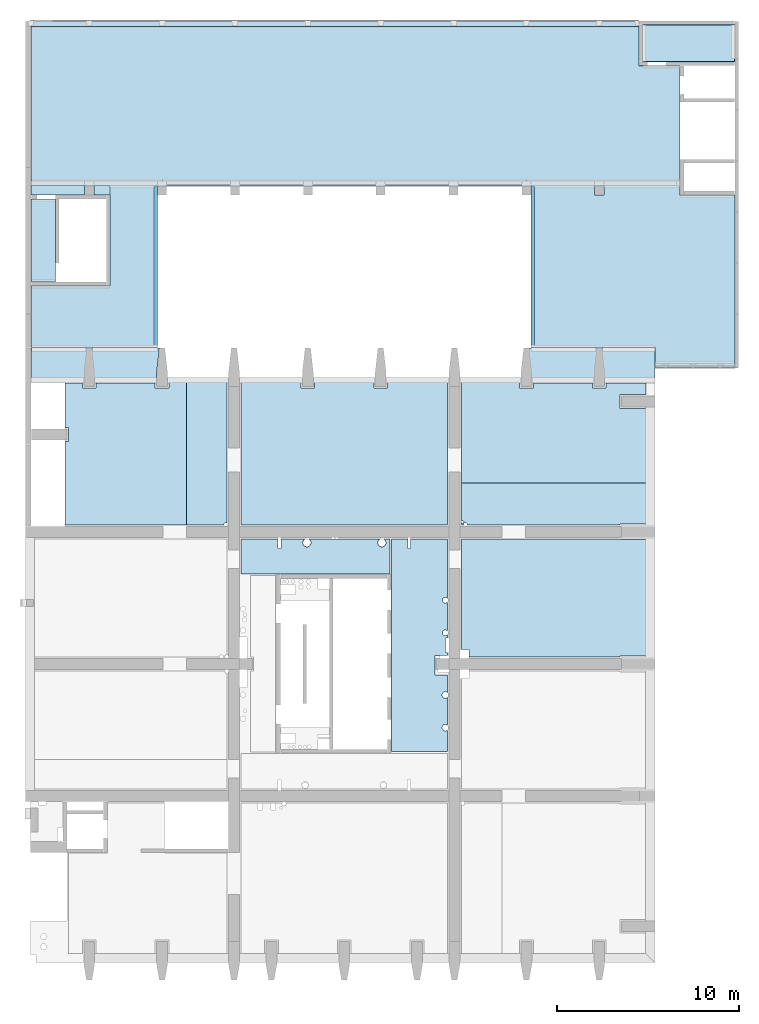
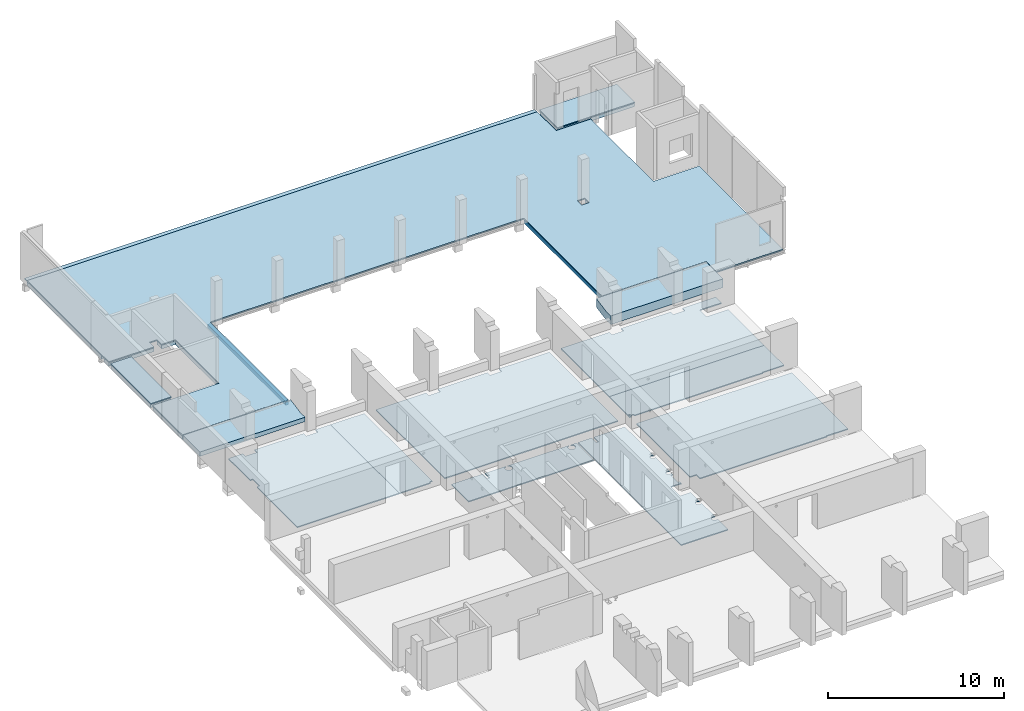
# One storey, part 6 of 10: 24 slabs, 43 openings.
"""IFC2X3 building model written with IfcOpenShell, lengths in millimetres."""

import ifcopenshell
import ifcopenshell.guid

model = None  # the IFC model being written
_history = None  # IfcOwnerHistory: only IFC2X3 demands one
_inside = {}  # id of a spatial element -> (the spatial element, [elements in it])
_under = {}  # id of a project, library or spatial element -> (it, [spatial elements below it])
_declared = {}  # id of a project -> (the project, [libraries it declares])
_typed = {}  # id of a type object -> (the type object, [elements of that type])
_made_of = {}  # id of a material, layer set ... -> (it, [elements and type objects made of it])


def new_model(schema):
    """Start an empty IFC model of exactly this schema.

    Asked for "IFC4X3", IfcOpenShell would pick the latest addendum, in which some entities
    have other attributes; the version numbers below select the first issue.
    IFC2X3 requires an IfcOwnerHistory on every rooted entity: one is made here for all.
    """
    global model, _history
    if schema == "IFC4X3":
        model = ifcopenshell.file(schema_version=(4, 3, 0, 0))
    else:
        model = ifcopenshell.file(schema=schema)
    _inside.clear()
    _under.clear()
    _declared.clear()
    _typed.clear()
    _made_of.clear()
    _history = None
    if model.schema == "IFC2X3":
        org = make("IfcOrganization", Name="unknown")
        user = make(
            "IfcPersonAndOrganization",
            ThePerson=make("IfcPerson", FamilyName="unknown"),
            TheOrganization=org,
        )
        app = make(
            "IfcApplication",
            ApplicationDeveloper=org,
            Version="unknown",
            ApplicationFullName="unknown",
            ApplicationIdentifier="unknown",
        )
        _history = make(
            "IfcOwnerHistory",
            OwningUser=user,
            OwningApplication=app,
            ChangeAction="ADDED",
            CreationDate=0,
        )
    return model


def make(cls, **values):
    """One entity of the class cls with the attributes given. An attribute that is None is left unset."""
    return model.create_entity(
        cls, **{name: value for name, value in values.items() if value is not None}
    )


def entity(cls, *values):
    """Any entity or typed value of the class cls, its attributes in the order of the schema. None: left unset."""
    e = model.create_entity(cls)
    for i, value in enumerate(values):
        if value is not None:
            e[i] = value
    return e


def rooted(cls, **values):
    """An entity with a GlobalId (a new one), such as an element, a storey or a relation."""
    return make(cls, GlobalId=ifcopenshell.guid.new(), OwnerHistory=_history, **values)


def si_unit(unit_type, name, prefix=None):
    """IfcSIUnit, for example si_unit("LENGTHUNIT", "METRE", prefix="MILLI")."""
    return make("IfcSIUnit", UnitType=unit_type, Prefix=prefix, Name=name)


def converted_unit(unit_type, name, factor, base, dimensions=None, offset=None):
    """IfcConversionBasedUnit, such as the inch: factor (a typed value) times the base unit."""
    return make(
        "IfcConversionBasedUnit"
        if offset is None
        else "IfcConversionBasedUnitWithOffset",
        ConversionOffset=offset,
        Dimensions=None
        if dimensions is None
        else entity("IfcDimensionalExponents", *dimensions),
        UnitType=unit_type,
        Name=name,
        ConversionFactor=make(
            "IfcMeasureWithUnit", ValueComponent=factor, UnitComponent=base
        ),
    )


def derived_unit(unit_type, elements):
    """IfcDerivedUnit: a product of units, each with its exponent."""
    return make(
        "IfcDerivedUnit",
        Elements=[
            make("IfcDerivedUnitElement", Unit=unit, Exponent=power)
            for unit, power in elements
        ],
        UnitType=unit_type,
    )


def assignment(units):
    """IfcUnitAssignment: the units of a project."""
    return None if units is None else make("IfcUnitAssignment", Units=units)


def point(xyz):
    """IfcCartesianPoint."""
    return None if xyz is None else make("IfcCartesianPoint", Coordinates=xyz)


def direction(xyz):
    """IfcDirection."""
    return None if xyz is None else make("IfcDirection", DirectionRatios=xyz)


def frame(location, z_axis=None, x_axis=None):
    """IfcAxis2Placement3D, a coordinate frame: its origin and axes. An axis left out is left unset."""
    return make(
        "IfcAxis2Placement3D",
        Location=point(location),
        Axis=direction(z_axis),
        RefDirection=direction(x_axis),
    )


def frame_2d(location, x_axis=None):
    """IfcAxis2Placement2D, a coordinate frame in the plane: its origin and x axis."""
    return make(
        "IfcAxis2Placement2D", Location=point(location), RefDirection=direction(x_axis)
    )


def origin():
    """The frame at (0, 0, 0) with its axes left unset."""
    return frame((0.0, 0.0, 0.0))


def origin_2d_with_axis():
    """The frame at (0, 0) in the plane with the x axis (1, 0) written out."""
    return frame_2d((0.0, 0.0), x_axis=(1.0, 0.0))


def place(relative_to, where):
    """IfcLocalPlacement: puts the frame where relative to a parent placement (None: the world)."""
    return make(
        "IfcLocalPlacement", PlacementRelTo=relative_to, RelativePlacement=where
    )


def context(
    kind, dimensions, precision=None, world=None, true_north=None, identifier=None
):
    """IfcGeometricRepresentationContext, for example the 3D "Model" context."""
    return make(
        "IfcGeometricRepresentationContext",
        ContextIdentifier=identifier,
        ContextType=kind,
        CoordinateSpaceDimension=dimensions,
        Precision=precision,
        WorldCoordinateSystem=world,
        TrueNorth=true_north,
    )


def subcontext(parent, identifier, kind, view, scale=None):
    """IfcGeometricRepresentationSubContext, for example "Body" below "Model"."""
    return make(
        "IfcGeometricRepresentationSubContext",
        ContextIdentifier=identifier,
        ContextType=kind,
        ParentContext=parent,
        TargetScale=scale,
        TargetView=view,
    )


def project(units=None, contexts=None):
    """IfcProject with its units and contexts."""
    return rooted(
        "IfcProject",
        Name="project",
        RepresentationContexts=contexts,
        UnitsInContext=assignment(units),
    )


def spatial(cls, under=None, at=None, **own):
    """A site, building, storey or space (cls), placed at a placement, below another one or the project."""
    s = rooted(cls, ObjectPlacement=at, **own)
    if under is not None:
        _under.setdefault(under.id(), (under, []))[1].append(s)
    return s


def polyline(points):
    """IfcPolyline through the points."""
    return make("IfcPolyline", Points=[point(p) for p in points])


def profile(cls, at=None, kind="AREA", **sizes):
    """A parametric profile (cls). Its sizes go by their IFC names, for example OverallWidth=200.0."""
    return make(cls, ProfileType=kind, Position=at, **sizes)


def rectangle(**sizes):
    """IfcRectangleProfileDef."""
    return profile("IfcRectangleProfileDef", **sizes)


def circle(**sizes):
    """IfcCircleProfileDef."""
    return profile("IfcCircleProfileDef", **sizes)


def outline(outer, holes=None, kind="AREA"):
    """IfcArbitraryClosedProfileDef: a profile drawn as a closed curve; with holes, ...WithVoids."""
    if holes is None:
        return make("IfcArbitraryClosedProfileDef", ProfileType=kind, OuterCurve=outer)
    return make(
        "IfcArbitraryProfileDefWithVoids",
        ProfileType=kind,
        OuterCurve=outer,
        InnerCurves=holes,
    )


def extrude(swept, where, along, depth):
    """IfcExtrudedAreaSolid: the profile swept, set in the frame where, extruded along a direction by depth."""
    return make(
        "IfcExtrudedAreaSolid",
        SweptArea=swept,
        Position=where,
        ExtrudedDirection=direction(along),
        Depth=depth,
    )


def shape(context_of_items, identifier, shape_type, items):
    """IfcShapeRepresentation: the items that make up one representation, for example the "Body"."""
    return make(
        "IfcShapeRepresentation",
        ContextOfItems=context_of_items,
        RepresentationIdentifier=identifier,
        RepresentationType=shape_type,
        Items=items,
    )


def material(Name=None, Category=None):
    """IfcMaterial."""
    return make("IfcMaterial", Name=Name, Category=Category)


def layer(
    of_material, thickness, ventilated=None, Name=None, Category=None, Priority=None
):
    """IfcMaterialLayer: one layer of a wall or slab, of a material (None: an air gap)."""
    return make(
        "IfcMaterialLayer",
        Material=of_material,
        LayerThickness=thickness,
        IsVentilated=ventilated,
        Name=Name,
        Category=Category,
        Priority=Priority,
    )


def layer_set(layers, Name=None):
    """IfcMaterialLayerSet."""
    return make("IfcMaterialLayerSet", MaterialLayers=layers, LayerSetName=Name)


def layer_usage(for_layer_set, set_direction, sense, offset, extent=None):
    """IfcMaterialLayerSetUsage: how a layer set lies in its element."""
    return make(
        "IfcMaterialLayerSetUsage",
        ForLayerSet=for_layer_set,
        LayerSetDirection=set_direction,
        DirectionSense=sense,
        OffsetFromReferenceLine=offset,
        ReferenceExtent=extent,
    )


def made_of(thing, what):
    """Note that an element or type object is made of a material, layer set ...; save() writes the relation."""
    if what is not None:
        _made_of.setdefault(what.id(), (what, []))[1].append(thing)
    return thing


def element(
    cls,
    number,
    at=None,
    inside=None,
    cuts=None,
    type_object=None,
    material=None,
    context=None,
    identifier="Body",
    shape_type=None,
    held_by="IfcProductDefinitionShape",
    body=None,
    shapes=None,
    **own,
):
    """One element of the class cls, such as IfcWall. Its Tag is "e" and its number.

    at: its placement. inside: the storey or other place that contains it. cuts: it is an
    opening in that element (IfcRelVoidsElement). A single representation is given by context,
    identifier, shape_type and body (its items); several are given by shapes. held_by: the class
    of the entity that holds the representations. save() writes the other relations.
    """
    e = rooted(cls, Tag="e%d" % number, ObjectPlacement=at, **own)
    if body is not None:
        shapes = [shape(context, identifier, shape_type, body)]
    if shapes is not None:
        e.Representation = make(held_by, Representations=shapes)
    if inside is not None:
        _inside.setdefault(inside.id(), (inside, []))[1].append(e)
    if cuts is not None:
        rooted(
            "IfcRelVoidsElement", RelatingBuildingElement=cuts, RelatedOpeningElement=e
        )
    if type_object is not None:
        _typed.setdefault(type_object.id(), (type_object, []))[1].append(e)
    return made_of(e, material)


def aggregate(whole, parts):
    """IfcRelAggregates: a whole, such as a stair, and the parts it consists of."""
    return rooted("IfcRelAggregates", RelatingObject=whole, RelatedObjects=parts)


def save(model, path):
    """Write the relations noted so far, then the file.

    IfcRelAggregates (storeys below a building ...), IfcRelContainedInSpatialStructure (elements
    in a storey), IfcRelDefinesByType, IfcRelAssociatesMaterial and IfcRelDeclares: one each for
    every whole, place, type object, material and project.
    """
    for whole, parts in _under.values():
        aggregate(whole, parts)
    for where, things in _inside.values():
        rooted(
            "IfcRelContainedInSpatialStructure",
            RelatedElements=things,
            RelatingStructure=where,
        )
    for kind, things in _typed.values():
        rooted("IfcRelDefinesByType", RelatedObjects=things, RelatingType=kind)
    for what, things in _made_of.values():
        rooted("IfcRelAssociatesMaterial", RelatedObjects=things, RelatingMaterial=what)
    for by, libraries in _declared.values():
        rooted("IfcRelDeclares", RelatingContext=by, RelatedDefinitions=libraries)
    model.write(path)


model = new_model("IFC2X3")

# Units and contexts
model_context = context("Model", 3, precision=0.01, world=origin(), true_north=direction((6.12303176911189e-17, 1.0)))
body_context = subcontext(model_context, "Body", "Model", "MODEL_VIEW")
ifc_project = project(units=[si_unit("LENGTHUNIT", "METRE", prefix="MILLI"), si_unit("AREAUNIT", "SQUARE_METRE"), si_unit("VOLUMEUNIT", "CUBIC_METRE"), converted_unit("PLANEANGLEUNIT", "DEGREE", entity("IfcRatioMeasure", 0.0174532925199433), si_unit("PLANEANGLEUNIT", "RADIAN"), dimensions=[0, 0, 0, 0, 0, 0, 0]), si_unit("MASSUNIT", "GRAM", prefix="KILO"), derived_unit("MASSDENSITYUNIT", [(si_unit("MASSUNIT", "GRAM", prefix="KILO"), 1), (si_unit("LENGTHUNIT", "METRE"), -3)]), si_unit("TIMEUNIT", "SECOND"), si_unit("FREQUENCYUNIT", "HERTZ"), si_unit("THERMODYNAMICTEMPERATUREUNIT", "DEGREE_CELSIUS"), derived_unit("THERMALTRANSMITTANCEUNIT", [(si_unit("MASSUNIT", "GRAM", prefix="KILO"), 1), (si_unit("THERMODYNAMICTEMPERATUREUNIT", "KELVIN"), -1), (si_unit("TIMEUNIT", "SECOND"), -3)]), derived_unit("VOLUMETRICFLOWRATEUNIT", [(si_unit("LENGTHUNIT", "METRE"), 3), (si_unit("TIMEUNIT", "SECOND"), -1)]), si_unit("ELECTRICCURRENTUNIT", "AMPERE"), si_unit("ELECTRICVOLTAGEUNIT", "VOLT"), si_unit("POWERUNIT", "WATT"), si_unit("FORCEUNIT", "NEWTON", prefix="KILO"), si_unit("ILLUMINANCEUNIT", "LUX"), si_unit("LUMINOUSFLUXUNIT", "LUMEN"), si_unit("LUMINOUSINTENSITYUNIT", "CANDELA"), derived_unit("USERDEFINED", [(si_unit("MASSUNIT", "GRAM", prefix="KILO"), -1), (si_unit("LENGTHUNIT", "METRE"), -2), (si_unit("TIMEUNIT", "SECOND"), 3), (si_unit("LUMINOUSFLUXUNIT", "LUMEN"), 1)]), derived_unit("LINEARVELOCITYUNIT", [(si_unit("LENGTHUNIT", "METRE"), 1), (si_unit("TIMEUNIT", "SECOND"), -1)]), si_unit("PRESSUREUNIT", "PASCAL"), derived_unit("USERDEFINED", [(si_unit("LENGTHUNIT", "METRE"), -2), (si_unit("MASSUNIT", "GRAM", prefix="KILO"), 1), (si_unit("TIMEUNIT", "SECOND"), -2)])], contexts=[model_context])

# Site, building, storey
site_placement = place(None, origin())
site = spatial("IfcSite", under=ifc_project, at=site_placement, Name="Default", CompositionType="ELEMENT")
building_placement = place(site_placement, origin())
building = spatial("IfcBuilding", under=site, at=building_placement, Name="niet gebruiken", CompositionType="ELEMENT")
storey_placement = place(building_placement, frame((0.0, 0.0, 9000.0)))
storey = spatial("IfcBuildingStorey", under=building, at=storey_placement, Name="02 tweede verdieping", CompositionType="ELEMENT", Elevation=9000.00000000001)

# Slabs
ifc_material_1 = material(Name="NLRS_f2_beton ihwg")
ifc_layer_1 = layer(ifc_material_1, 300.0)
ifc_layer_set_1 = layer_set([ifc_layer_1], Name="Floor:NLRS_23.21_FL_beton ihwg d=300_gen")
ifc_layer_usage_1 = layer_usage(ifc_layer_set_1, "AXIS3", "POSITIVE", 0.0)
slab_1_placement = place(storey_placement, origin())
element("IfcSlab", 1, at=slab_1_placement, inside=storey, material=ifc_layer_usage_1, Name="Floor:NLRS_23.21_FL_beton ihwg d=300_gen", ObjectType="Floor:NLRS_23.21_FL_beton ihwg d=300_gen", PredefinedType="FLOOR", context=body_context, shape_type="SweptSolid", body=[
    extrude(outline(polyline([(-882.0, -4170.0), (1038.0, -4170.0), (1038.0, 2880.0), (-312.0, 2730.0), (-882.0, 2730.0), (-882.0, -4170.0)])), frame((128720.0, 33812.0, 810.0), z_axis=(0.0, 0.0, -1.0), x_axis=(0.0, 1.0, 0.0)), (0.0, 0.0, 1.0), 300.0),
])
ifc_layer_2 = layer(ifc_material_1, 600.0)
ifc_layer_set_2 = layer_set([ifc_layer_2], Name="Floor:NLRS_23.21_FL_beton ihwg d=600_gen")
ifc_layer_usage_2 = layer_usage(ifc_layer_set_2, "AXIS3", "POSITIVE", 0.0)
slab_2_placement = place(storey_placement, origin())
element("IfcSlab", 2, at=slab_2_placement, inside=storey, material=ifc_layer_usage_2, Name="Floor:NLRS_23.21_FL_beton ihwg d=600_gen", ObjectType="Floor:NLRS_23.21_FL_beton ihwg d=600_gen", PredefinedType="FLOOR", context=body_context, shape_type="SweptSolid", body=[
    extrude(outline(polyline([(-882.0, -2970.0), (-312.0, -2970.0), (1038.0, -2820.0), (1038.0, 4380.0), (-882.0, 4380.0), (-882.0, -2970.0)])), frame((154420.0, 33812.0, 810.0), z_axis=(0.0, 0.0, -1.0), x_axis=(0.0, 1.0, 0.0)), (0.0, 0.0, 1.0), 600.0),
])
ifc_material_2 = material(Name="NLRS_f2_beton prefab")
ifc_layer_3 = layer(ifc_material_2, 255.0)
ifc_layer_set_3 = layer_set([ifc_layer_3], Name="Floor:NLRS_23.21_FL_kanaalplaat d=255_gen")
ifc_layer_usage_3 = layer_usage(ifc_layer_set_3, "AXIS3", "POSITIVE", 0.0)
slab_3_placement = place(storey_placement, frame((124550.0, 34027.0, 485.0)))
element("IfcSlab", 3, at=slab_3_placement, inside=storey, material=ifc_layer_usage_3, Name="Floor:NLRS_23.21_FL_kanaalplaat d=255_gen", ObjectType="Floor:NLRS_23.21_FL_kanaalplaat d=255_gen", PredefinedType="FLOOR", context=body_context, shape_type="SweptSolid", body=[
    extrude(outline(polyline([(12570.0, 479.0), (12570.0, -8376.0), (19320.0, -8376.0), (19320.0, -5026.0), (14970.0, -5026.0), (14970.0, 479.0), (12570.0, 479.0)])), frame((19320.0, 9234.0, 255.0), z_axis=(0.0, 0.0, -1.0), x_axis=(-1.0, 0.0, 0.0)), (0.0, 0.0, 1.0), 255.000000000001),
])
slab_4_placement = place(storey_placement, frame((124550.0, 34027.0, 485.0)))
element("IfcSlab", 4, at=slab_4_placement, inside=storey, material=ifc_layer_usage_3, Name="Floor:NLRS_23.21_FL_kanaalplaat d=255_gen:2", ObjectType="Floor:NLRS_23.21_FL_kanaalplaat d=255_gen", PredefinedType="FLOOR", context=body_context, shape_type="SweptSolid", body=[
    extrude(outline(polyline([(-8330.0, -8376.0), (-8330.0, 499.0), (-11630.0, 499.0), (-11630.0, -31.0), (-12130.0, -31.0), (-12130.0, 499.0), (-16320.0, 499.0), (-16320.0, -46.0), (-19320.0, -46.0), (-19320.0, -9234.0), (-14950.0, -9234.0), (-14950.0, -8376.0), (-8330.0, -8376.0)])), frame((19320.0, 9234.0, 255.0), z_axis=(0.0, 0.0, -1.0), x_axis=(-1.0, 0.0, 0.0)), (0.0, 0.0, 1.0), 255.000000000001),
])
slab_5_placement = place(storey_placement, frame((124550.0, 34027.0, 485.0)))
element("IfcSlab", 5, at=slab_5_placement, inside=storey, material=ifc_layer_usage_3, Name="Floor:NLRS_23.21_FL_kanaalplaat d=255_gen:3", ObjectType="Floor:NLRS_23.21_FL_kanaalplaat d=255_gen", PredefinedType="FLOOR", context=body_context, shape_type="SweptSolid", body=[
    extrude(outline(polyline([(-16320.0, 779.0), (19320.0, 779.0), (19320.0, 9234.0), (-14050.0, 9234.0), (-14050.0, 7054.0), (-16320.0, 7054.0), (-16320.0, 779.0)])), frame((19320.0, 9234.0, 255.0), z_axis=(0.0, 0.0, -1.0), x_axis=(-1.0, 0.0, 0.0)), (0.0, 0.0, 1.0), 255.000000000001),
])
slab_6_placement = place(storey_placement, frame((124550.0, 34027.0, 485.0)))
element("IfcSlab", 6, at=slab_6_placement, inside=storey, material=ifc_layer_usage_3, Name="Floor:NLRS_23.21_FL_kanaalplaat d=255_gen:4", ObjectType="Floor:NLRS_23.21_FL_kanaalplaat d=255_gen", PredefinedType="FLOOR", context=body_context, shape_type="SweptSolid", body=[
    extrude(rectangle(XDim=4490.00000000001, YDim=1349.99999999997, at=frame_2d((18645.0, -2511.0), x_axis=(0.0, -1.0))), frame((19320.0, 9234.0, 255.0), z_axis=(0.0, 0.0, -1.0), x_axis=(-1.0, 0.0, 0.0)), (0.0, 0.0, 1.0), 255.000000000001),
])

# Slab, opening
ifc_layer_4 = layer(ifc_material_1, 70.0)
ifc_layer_set_4 = layer_set([ifc_layer_4], Name="Floor:NLRS_23.21_FL_druklaag d=70_gen")
ifc_layer_usage_4 = layer_usage(ifc_layer_set_4, "AXIS3", "POSITIVE", 0.0)
slab_7_placement = place(storey_placement, frame((124550.0, 33752.0, 740.0)))
slab_7 = element("IfcSlab", 7, at=slab_7_placement, inside=storey, material=ifc_layer_usage_4, Name="Floor:NLRS_23.21_FL_druklaag d=70_gen", ObjectType="Floor:NLRS_23.21_FL_druklaag d=70_gen", PredefinedType="FLOOR", context=body_context, shape_type="SweptSolid", body=[
    extrude(outline(polyline([(12370.0, 641.499999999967), (12370.0, -8238.50000000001), (19320.0, -8238.50000000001), (19320.0, -4853.49999999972), (14970.0, -4853.49999999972), (14970.0, 106.499999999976), (15870.0, 106.499999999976), (15870.0, 626.499999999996), (16370.0, 626.500000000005), (16370.0, 106.499999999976), (19320.0, 106.499999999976), (19320.0, 9371.49999999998), (-14050.0, 9371.49999999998), (-14050.0, 7226.49999999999), (-16320.0, 7226.49999999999), (-16320.0, 126.49999999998), (-19320.0, 126.499999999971), (-19320.0, -9371.49999999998), (-14950.0, -9371.49999999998), (-14950.0, -8238.50000000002), (-8130.0, -8238.50000000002), (-8130.0, 641.499999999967), (12370.0, 641.499999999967)])), frame((19320.0, 9371.49999999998, 70.0), z_axis=(0.0, 0.0, -1.0), x_axis=(-1.0, 0.0, 0.0)), (0.0, 0.0, 1.0), 70.0000000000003),
])
opening_1_placement = place(slab_7_placement, frame((31200.0, 9748.0, 70.0)))
element("IfcOpeningElement", 8, at=opening_1_placement, cuts=slab_7, Name="Floor:NLRS_23.21_FL_druklaag d=70_gen:2", ObjectType="Opening", context=body_context, shape_type="SweptSolid", body=[
    extrude(rectangle(XDim=499.999999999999, YDim=499.99999999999, at=origin_2d_with_axis()), frame((0.0, 0.0, 0.0), z_axis=(0.0, 0.0, -1.0), x_axis=(0.0, -1.0, 0.0)), (0.0, 0.0, 1.0), 70.0000000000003),
])

# Slabs
slab_8_placement = place(storey_placement, frame((124550.0, 33752.0, 740.0)))
element("IfcSlab", 9, at=slab_8_placement, inside=storey, material=ifc_layer_usage_4, Name="Floor:NLRS_23.21_FL_druklaag d=70_gen:2", ObjectType="Floor:NLRS_23.21_FL_druklaag d=70_gen", PredefinedType="FLOOR", context=body_context, shape_type="SweptSolid", body=[
    extrude(rectangle(XDim=4560.00000000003, YDim=1350.00000000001, at=frame_2d((18645.0, -2373.50000000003), x_axis=(0.0, -1.0))), frame((19320.0, 9371.49999999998, 70.0), z_axis=(0.0, 0.0, -1.0), x_axis=(-1.0, 0.0, 0.0)), (0.0, 0.0, 1.0), 70.0000000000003),
])
ifc_layer_usage_5 = layer_usage(ifc_layer_set_3, "AXIS3", "POSITIVE", 0.0)
slab_9_placement = place(storey_placement, origin())
element("IfcSlab", 10, at=slab_9_placement, inside=storey, material=ifc_layer_usage_5, Name="Floor:NLRS_23.21_FL_kanaalplaat d=255_gen", ObjectType="Floor:NLRS_23.21_FL_kanaalplaat d=255_gen", PredefinedType="FLOOR", context=body_context, shape_type="SweptSolid", body=[
    extrude(rectangle(XDim=2010.00000000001, YDim=5030.00000000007, at=origin_2d_with_axis()), frame((160655.0, 51575.0, 740.0), z_axis=(0.0, 0.0, -1.0), x_axis=(0.0, 1.0, 0.0)), (0.0, 0.0, 1.0), 255.000000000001),
])
ifc_layer_usage_6 = layer_usage(ifc_layer_set_4, "AXIS3", "POSITIVE", 0.0)
slab_10_placement = place(storey_placement, origin())
element("IfcSlab", 11, at=slab_10_placement, inside=storey, material=ifc_layer_usage_6, Name="Floor:NLRS_23.21_FL_druklaag d=70_gen", ObjectType="Floor:NLRS_23.21_FL_druklaag d=70_gen", PredefinedType="FLOOR", context=body_context, shape_type="SweptSolid", body=[
    extrude(rectangle(XDim=2050.0, YDim=5070.00000000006, at=origin_2d_with_axis()), frame((160655.0, 51575.0, 810.0), z_axis=(0.0, 0.0, -1.0), x_axis=(0.0, 1.0, 0.0)), (0.0, 0.0, 1.0), 70.0000000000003),
])

# Slab, opening
ifc_layer_5 = layer(ifc_material_2, 70.0)
ifc_layer_set_5 = layer_set([ifc_layer_5], Name="Floor:NLRS_23.21_FL_breedplaat d=70_gen")
ifc_layer_usage_7 = layer_usage(ifc_layer_set_5, "AXIS3", "POSITIVE", 0.0)
slab_11_placement = place(storey_placement, frame((133100.0, 25130.0, -360.0)))
slab_11 = element("IfcSlab", 12, at=slab_11_placement, inside=storey, material=ifc_layer_usage_7, Name="Floor:NLRS_23.21_FL_breedplaat d=70_gen", ObjectType="Floor:NLRS_23.21_FL_breedplaat d=70_gen", PredefinedType="FLOOR", context=body_context, shape_type="SweptSolid", body=[
    extrude(rectangle(XDim=7809.99999999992, YDim=2220.0, at=frame_2d((11494.8296291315, 0.0), x_axis=(0.0, 1.0))), frame((12604.8296291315, 3905.0, 70.0), z_axis=(0.0, 0.0, -1.0), x_axis=(-1.0, 0.0, 0.0)), (0.0, 0.0, 1.0), 70.0000000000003),
])
placement_1 = place(slab_11_placement, origin())
element("IfcOpeningElement", 13, at=placement_1, cuts=slab_11, ObjectType="Opening", context=body_context, shape_type="SweptSolid", body=[
    extrude(circle(Radius=100.0, at=origin_2d_with_axis()), frame((2140.0, 20.0, 0.0), z_axis=(0.0, 0.0, 1.0), x_axis=(-1.0, 0.0, 0.0)), (0.0, 0.0, 1.0), 270.0),
])

slab_12_placement = place(storey_placement, frame((133100.0, 25130.0, -360.0)))
slab_12 = element("IfcSlab", 14, at=slab_12_placement, inside=storey, material=ifc_layer_usage_7, Name="Floor:NLRS_23.21_FL_breedplaat d=70_gen:2", ObjectType="Floor:NLRS_23.21_FL_breedplaat d=70_gen", PredefinedType="FLOOR", context=body_context, shape_type="SweptSolid", body=[
    extrude(outline(polyline([(-2475.17037086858, -1595.0), (-2475.17037086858, 3905.0), (-5665.17037086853, 3905.0), (-5665.17037086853, 3615.0), (-6425.17037086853, 3615.0), (-6425.17037086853, 3905.0), (-9665.17037086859, 3905.0), (-9665.17037086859, 3615.0), (-10425.1703708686, 3615.0), (-10425.1703708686, 3905.0), (-12604.8296291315, 3905.0), (-12604.8296291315, 3245.0), (-11195.1703708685, 3245.0), (-11195.1703708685, 2485.0), (-12604.8296291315, 2485.0), (-12604.8296291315, -1595.0), (-2475.17037086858, -1595.0)])), frame((12604.8296291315, 3905.0, 70.0), z_axis=(0.0, 0.0, -1.0), x_axis=(-1.0, 0.0, 0.0)), (0.0, 0.0, 1.0), 70.0000000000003),
])
element("IfcOpeningElement", 15, at=placement_1, cuts=slab_12, ObjectType="Opening", context=body_context, shape_type="SweptSolid", body=[
    extrude(circle(Radius=100.0, at=origin_2d_with_axis()), frame((2140.0, 20.0, 0.0), z_axis=(0.0, 0.0, 1.0), x_axis=(-1.0, 0.0, 0.0)), (0.0, 0.0, 1.0), 270.0),
])

slab_13_placement = place(storey_placement, frame((133100.0, 25130.0, -360.0)))
slab_13 = element("IfcSlab", 16, at=slab_13_placement, inside=storey, material=ifc_layer_usage_7, Name="Floor:NLRS_23.21_FL_breedplaat d=70_gen:3", ObjectType="Floor:NLRS_23.21_FL_breedplaat d=70_gen", PredefinedType="FLOOR", context=body_context, shape_type="SweptSolid", body=[
    extrude(outline(polyline([(-1715.17037086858, -3905.0), (9624.82962913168, -3905.0), (9624.82962913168, 3905.0), (6334.82962913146, 3905.0), (6334.82962913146, 3615.0), (5574.82962913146, 3615.0), (5574.82962913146, 3905.0), (2334.82962913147, 3905.0), (2334.82962913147, 3615.0), (1574.82962913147, 3615.0), (1574.82962913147, 3905.0), (-1715.17037086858, 3905.0), (-1715.17037086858, -3905.0)])), frame((12604.8296291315, 3905.0, 70.0), z_axis=(0.0, 0.0, -1.0), x_axis=(-1.0, 0.0, 0.0)), (0.0, 0.0, 1.0), 70.0000000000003),
])
element("IfcOpeningElement", 17, at=placement_1, cuts=slab_13, ObjectType="Opening", context=body_context, shape_type="SweptSolid", body=[
    extrude(circle(Radius=100.0, at=origin_2d_with_axis()), frame((2140.0, 20.0, 0.0), z_axis=(0.0, 0.0, 1.0), x_axis=(-1.0, 0.0, 0.0)), (0.0, 0.0, 1.0), 270.0),
])

# Slab, openings
ifc_layer_usage_8 = layer_usage(ifc_layer_set_5, "AXIS3", "POSITIVE", 0.0)
slab_14_placement = place(storey_placement, frame((148180.0, 1604.0, -360.0)))
slab_14 = element("IfcSlab", 18, at=slab_14_placement, inside=storey, material=ifc_layer_usage_8, Name="Floor:NLRS_23.21_FL_breedplaat d=70_gen", ObjectType="Floor:NLRS_23.21_FL_breedplaat d=70_gen", PredefinedType="FLOOR", context=body_context, shape_type="SweptSolid", body=[
    extrude(outline(polyline([(5064.82962913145, 12918.0), (-5064.82962913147, 12918.0), (-5064.82962913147, 10658.0), (-3655.17037086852, 10658.0), (-3655.17037086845, 10608.0), (5064.82962913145, 10608.0), (5064.82962913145, 12918.0)])), frame((5064.82962913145, 12918.0, 70.0), z_axis=(0.0, 0.0, -1.0), x_axis=(-1.0, 0.0, 0.0)), (0.0, 0.0, 1.0), 70.0000000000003),
])
placement_2 = place(slab_14_placement, origin())
element("IfcOpeningElement", 19, at=placement_2, cuts=slab_14, ObjectType="Opening", context=body_context, shape_type="SweptSolid", body=[
    extrude(rectangle(XDim=500.000000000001, YDim=500.000000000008, at=origin_2d_with_axis()), frame((170.0, 15346.0, 0.0), z_axis=(0.0, 0.0, 1.0), x_axis=(0.0, 1.0, 0.0)), (0.0, 0.0, 1.0), 270.0),
])
placement_3 = place(slab_14_placement, origin())
element("IfcOpeningElement", 20, at=placement_3, cuts=slab_14, ObjectType="Opening", context=body_context, shape_type="SweptSolid", body=[
    extrude(rectangle(XDim=500.000000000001, YDim=500.000000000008, at=origin_2d_with_axis()), frame((170.0, 16446.0, 0.0), z_axis=(0.0, 0.0, 1.0), x_axis=(0.0, 1.0, 0.0)), (0.0, 0.0, 1.0), 270.0),
])
placement_4 = place(slab_14_placement, origin())
element("IfcOpeningElement", 21, at=placement_4, cuts=slab_14, ObjectType="Opening", context=body_context, shape_type="SweptSolid", body=[
    extrude(circle(Radius=100.0, at=origin_2d_with_axis()), frame((222.0, 23546.0, 0.0), z_axis=(0.0, 0.0, 1.0), x_axis=(-1.0, 0.0, 0.0)), (0.0, 0.0, 1.0), 270.0),
])
placement_5 = place(slab_14_placement, origin())
element("IfcOpeningElement", 22, at=placement_5, cuts=slab_14, ObjectType="Opening", context=body_context, shape_type="SweptSolid", body=[
    extrude(rectangle(XDim=300.000000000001, YDim=1200.0, at=origin_2d_with_axis()), frame((4570.0, 8606.0, 100.0), z_axis=(0.0, 0.0, 1.0), x_axis=(-1.0, 0.0, 0.0)), (0.0, 0.0, 1.0), 100.0),
])
placement_6 = place(slab_14_placement, origin())
element("IfcOpeningElement", 23, at=placement_6, cuts=slab_14, ObjectType="Opening", context=body_context, shape_type="SweptSolid", body=[
    extrude(circle(Radius=62.5, at=origin_2d_with_axis()), frame((70.0, 23696.0, 0.0), z_axis=(0.0, 0.0, 1.0), x_axis=(-1.0, 0.0, 0.0)), (0.0, 0.0, 1.0), 270.0),
])

slab_15_placement = place(storey_placement, frame((148180.0, 1604.0, -360.0)))
slab_15 = element("IfcSlab", 24, at=slab_15_placement, inside=storey, material=ifc_layer_usage_8, Name="Floor:NLRS_23.21_FL_breedplaat d=70_gen:4", ObjectType="Floor:NLRS_23.21_FL_breedplaat d=70_gen", PredefinedType="FLOOR", context=body_context, shape_type="SweptSolid", body=[
    extrude(outline(polyline([(-3655.17037086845, 3358.0), (5064.82962913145, 3358.0), (5064.82962913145, 9848.0), (-3655.17037086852, 9848.0), (-3655.17037086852, 9798.0), (-5064.82962913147, 9798.0), (-5064.82962913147, 3408.0), (-3655.17037086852, 3408.0), (-3655.17037086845, 3358.0)])), frame((5064.82962913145, 12918.0, 70.0), z_axis=(0.0, 0.0, -1.0), x_axis=(-1.0, 0.0, 0.0)), (0.0, 0.0, 1.0), 70.0000000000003),
])
element("IfcOpeningElement", 25, at=placement_2, cuts=slab_15, ObjectType="Opening", context=body_context, shape_type="SweptSolid", body=[
    extrude(rectangle(XDim=500.000000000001, YDim=500.000000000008, at=origin_2d_with_axis()), frame((170.0, 15346.0, 0.0), z_axis=(0.0, 0.0, 1.0), x_axis=(0.0, 1.0, 0.0)), (0.0, 0.0, 1.0), 270.0),
])
element("IfcOpeningElement", 26, at=placement_3, cuts=slab_15, ObjectType="Opening", context=body_context, shape_type="SweptSolid", body=[
    extrude(rectangle(XDim=500.000000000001, YDim=500.000000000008, at=origin_2d_with_axis()), frame((170.0, 16446.0, 0.0), z_axis=(0.0, 0.0, 1.0), x_axis=(0.0, 1.0, 0.0)), (0.0, 0.0, 1.0), 270.0),
])
element("IfcOpeningElement", 27, at=placement_4, cuts=slab_15, ObjectType="Opening", context=body_context, shape_type="SweptSolid", body=[
    extrude(circle(Radius=100.0, at=origin_2d_with_axis()), frame((222.0, 23546.0, 0.0), z_axis=(0.0, 0.0, 1.0), x_axis=(-1.0, 0.0, 0.0)), (0.0, 0.0, 1.0), 270.0),
])
element("IfcOpeningElement", 28, at=placement_5, cuts=slab_15, ObjectType="Opening", context=body_context, shape_type="SweptSolid", body=[
    extrude(rectangle(XDim=300.000000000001, YDim=1200.0, at=origin_2d_with_axis()), frame((4570.0, 8606.0, 100.0), z_axis=(0.0, 0.0, 1.0), x_axis=(-1.0, 0.0, 0.0)), (0.0, 0.0, 1.0), 100.0),
])
element("IfcOpeningElement", 29, at=placement_6, cuts=slab_15, ObjectType="Opening", context=body_context, shape_type="SweptSolid", body=[
    extrude(circle(Radius=62.5, at=origin_2d_with_axis()), frame((70.0, 23696.0, 0.0), z_axis=(0.0, 0.0, 1.0), x_axis=(-1.0, 0.0, 0.0)), (0.0, 0.0, 1.0), 270.0),
])

ifc_layer_usage_9 = layer_usage(ifc_layer_set_5, "AXIS3", "POSITIVE", 0.0)
slab_16_placement = place(storey_placement, frame((124740.0, 12266.0, -360.0)))
slab_16 = element("IfcSlab", 30, at=slab_16_placement, inside=storey, material=ifc_layer_usage_9, Name="Floor:NLRS_23.21_FL_breedplaat d=70_gen", ObjectType="Floor:NLRS_23.21_FL_breedplaat d=70_gen", PredefinedType="FLOOR", context=body_context, shape_type="SweptSolid", body=[
    extrude(outline(polyline([(-3070.0, 2527.0), (3600.0, 2527.0), (3600.0, 7117.0), (3430.0, 7117.0), (3430.0, 7877.0), (3600.0, 7877.0), (3600.0, 10337.0), (2660.0, 10337.0), (2660.0, 10047.0), (1900.0, 10047.0), (1900.0, 10337.0), (-1340.0, 10337.0), (-1340.0, 10047.0), (-2100.0, 10047.0), (-2100.0, 10337.0), (-3070.0, 10337.0), (-3070.0, 2527.0)])), frame((5290.0, 10337.0, 70.0), z_axis=(0.0, 0.0, -1.0), x_axis=(-1.0, 0.0, 0.0)), (0.0, 0.0, 1.0), 70.0000000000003),
])
opening_15_placement = place(slab_16_placement, origin())
element("IfcOpeningElement", 31, at=opening_15_placement, cuts=slab_16, ObjectType="Opening", context=body_context, shape_type="SweptSolid", body=[
    extrude(circle(Radius=100.0, at=origin_2d_with_axis()), frame((10260.0, 5634.0, 0.0), z_axis=(0.0, 0.0, 1.0), x_axis=(-1.0, 0.0, 0.0)), (0.0, 0.0, 1.0), 270.0),
])
opening_16_placement = place(slab_16_placement, origin())
element("IfcOpeningElement", 32, at=opening_16_placement, cuts=slab_16, ObjectType="Opening", context=body_context, shape_type="SweptSolid", body=[
    extrude(circle(Radius=100.0, at=origin_2d_with_axis()), frame((10560.0, 5634.0, 0.0), z_axis=(0.0, 0.0, 1.0), x_axis=(-1.0, 0.0, 0.0)), (0.0, 0.0, 1.0), 270.0),
])
opening_17_placement = place(slab_16_placement, origin())
element("IfcOpeningElement", 33, at=opening_17_placement, cuts=slab_16, ObjectType="Opening", context=body_context, shape_type="SweptSolid", body=[
    extrude(circle(Radius=100.0, at=origin_2d_with_axis()), frame((10560.0, 4834.0, 0.0), z_axis=(0.0, 0.0, 1.0), x_axis=(-1.0, 0.0, 0.0)), (0.0, 0.0, 1.0), 270.0),
])

ifc_layer_usage_10 = layer_usage(ifc_layer_set_5, "AXIS3", "POSITIVE", 0.0)
slab_17_placement = place(storey_placement, frame((136080.0, 10630.0, -330.0)))
slab_17 = element("IfcSlab", 34, at=slab_17_placement, inside=storey, material=ifc_layer_usage_10, Name="Floor:NLRS_23.21_FL_breedplaat d=70_gen:3", ObjectType="Floor:NLRS_23.21_FL_breedplaat d=70_gen", PredefinedType="FLOOR", context=body_context, shape_type="SweptSolid", body=[
    extrude(outline(polyline([(-2600.0, 6870.0), (-5670.0, 6870.0), (-5670.0, 450.0), (-4970.0, 450.0), (-4970.0, -600.0), (-5670.0, -600.0), (-5670.0, -4820.0), (-2600.0, -4820.0), (-2600.0, 6870.0)])), frame((5670.0, 6870.0, 70.0), z_axis=(0.0, 0.0, -1.0), x_axis=(-1.0, 0.0, 0.0)), (0.0, 0.0, 1.0), 70.0000000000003),
])
placement_7 = place(storey_placement, frame((136080.0, 10630.0, -330.0)))
placement_8 = place(placement_7, origin())
element("IfcOpeningElement", 35, at=placement_8, cuts=slab_17, ObjectType="Opening", context=body_context, shape_type="SweptSolid", body=[
    extrude(rectangle(XDim=150.000000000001, YDim=590.000000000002, at=origin_2d_with_axis()), frame((2120.03236940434, 214.908594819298, 0.0)), (0.0, 0.0, 1.0), 240.0),
])
placement_9 = place(placement_7, origin())
element("IfcOpeningElement", 36, at=placement_9, cuts=slab_17, ObjectType="Opening", context=body_context, shape_type="SweptSolid", body=[
    extrude(rectangle(XDim=150.000000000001, YDim=600.000000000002, at=origin_2d_with_axis()), frame((9236.0, 13520.0, 0.0)), (0.0, 0.0, 1.0), 240.0),
])
placement_10 = place(placement_7, origin())
element("IfcOpeningElement", 37, at=placement_10, cuts=slab_17, ObjectType="Opening", context=body_context, shape_type="SweptSolid", body=[
    extrude(circle(Radius=177.5, at=origin_2d_with_axis()), frame((11219.0502495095, 3370.0, 0.0), z_axis=(0.0, 0.0, 1.0), x_axis=(0.0, 1.0, 0.0)), (0.0, 0.0, 1.0), 240.0),
])
placement_11 = place(placement_7, origin())
element("IfcOpeningElement", 38, at=placement_11, cuts=slab_17, ObjectType="Opening", context=body_context, shape_type="SweptSolid", body=[
    extrude(circle(Radius=177.5, at=origin_2d_with_axis()), frame((11220.0, 5165.0, 0.0), z_axis=(0.0, 0.0, 1.0), x_axis=(0.0, 1.0, 0.0)), (0.0, 0.0, 1.0), 240.0),
])
placement_12 = place(placement_7, origin())
element("IfcOpeningElement", 39, at=placement_12, cuts=slab_17, ObjectType="Opening", context=body_context, shape_type="SweptSolid", body=[
    extrude(rectangle(XDim=800.000000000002, YDim=200.000000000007, at=origin_2d_with_axis()), frame((11320.0, 7894.66819096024, 0.0), z_axis=(0.0, 0.0, 1.0), x_axis=(0.0, -1.0, 0.0)), (0.0, 0.0, 1.0), 240.0),
])
placement_13 = place(placement_7, origin())
element("IfcOpeningElement", 40, at=placement_13, cuts=slab_17, ObjectType="Opening", context=body_context, shape_type="SweptSolid", body=[
    extrude(circle(Radius=225.0, at=origin_2d_with_axis()), frame((3618.0, 13520.0, 0.0), z_axis=(0.0, 0.0, 1.0), x_axis=(-1.0, 0.0, 0.0)), (0.0, 0.0, 1.0), 240.0),
])
placement_14 = place(placement_7, origin())
element("IfcOpeningElement", 41, at=placement_14, cuts=slab_17, ObjectType="Opening", context=body_context, shape_type="SweptSolid", body=[
    extrude(circle(Radius=225.0, at=origin_2d_with_axis()), frame((7735.0, 13520.0, 0.0), z_axis=(0.0, 0.0, 1.0), x_axis=(-1.0, 0.0, 0.0)), (0.0, 0.0, 1.0), 240.0),
])
placement_15 = place(placement_7, origin())
element("IfcOpeningElement", 42, at=placement_15, cuts=slab_17, ObjectType="Opening", context=body_context, shape_type="SweptSolid", body=[
    extrude(rectangle(XDim=150.000000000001, YDim=600.000000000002, at=origin_2d_with_axis()), frame((2115.0, 13520.0, 0.0)), (0.0, 0.0, 1.0), 240.0),
])
placement_16 = place(placement_7, origin())
element("IfcOpeningElement", 43, at=placement_16, cuts=slab_17, ObjectType="Opening", context=body_context, shape_type="SweptSolid", body=[
    extrude(circle(Radius=157.5, at=origin_2d_with_axis()), frame((11220.0, 10373.5054766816, 0.0), z_axis=(0.0, 0.0, 1.0), x_axis=(0.0, 1.0, 0.0)), (0.0, 0.0, 1.0), 240.0),
])
placement_17 = place(placement_7, origin())
element("IfcOpeningElement", 44, at=placement_17, cuts=slab_17, ObjectType="Opening", context=body_context, shape_type="SweptSolid", body=[
    extrude(circle(Radius=157.5, at=origin_2d_with_axis()), frame((11220.0, 8577.15038231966, 0.0), z_axis=(0.0, 0.0, 1.0), x_axis=(0.0, 1.0, 0.0)), (0.0, 0.0, 1.0), 240.0),
])
placement_18 = place(placement_7, origin())
element("IfcOpeningElement", 45, at=placement_18, cuts=slab_17, ObjectType="Opening", context=body_context, shape_type="SweptSolid", body=[
    extrude(rectangle(XDim=150.000000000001, YDim=595.000000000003, at=origin_2d_with_axis()), frame((9222.0, 217.499999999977, 0.0)), (0.0, 0.0, 1.0), 240.0),
])
placement_19 = place(placement_7, origin())
element("IfcOpeningElement", 46, at=placement_19, cuts=slab_17, ObjectType="Opening", context=body_context, shape_type="SweptSolid", body=[
    extrude(circle(Radius=177.5, at=origin_2d_with_axis()), frame((3520.0, 220.0, 0.0), z_axis=(0.0, 0.0, 1.0), x_axis=(-1.0, 0.0, 0.0)), (0.0, 0.0, 1.0), 240.0),
])
placement_20 = place(placement_7, origin())
element("IfcOpeningElement", 47, at=placement_20, cuts=slab_17, ObjectType="Opening", context=body_context, shape_type="SweptSolid", body=[
    extrude(circle(Radius=177.5, at=origin_2d_with_axis()), frame((7820.0, 220.0, 0.0), z_axis=(0.0, 0.0, 1.0), x_axis=(-1.0, 0.0, 0.0)), (0.0, 0.0, 1.0), 240.0),
])

slab_18_placement = place(storey_placement, frame((136080.0, 10630.0, -330.0)))
slab_18 = element("IfcSlab", 48, at=slab_18_placement, inside=storey, material=ifc_layer_usage_10, Name="Floor:NLRS_23.21_FL_breedplaat d=70_gen:4", ObjectType="Floor:NLRS_23.21_FL_breedplaat d=70_gen", PredefinedType="FLOOR", context=body_context, shape_type="SweptSolid", body=[
    extrude(rectangle(XDim=8189.99999999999, YDim=1939.99999999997, at=frame_2d((1575.0, 5900.0), x_axis=(-1.0, 0.0))), frame((5670.0, 6870.0, 70.0), z_axis=(0.0, 0.0, -1.0), x_axis=(-1.0, 0.0, 0.0)), (0.0, 0.0, 1.0), 70.0000000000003),
])
element("IfcOpeningElement", 49, at=placement_8, cuts=slab_18, ObjectType="Opening", context=body_context, shape_type="SweptSolid", body=[
    extrude(rectangle(XDim=150.000000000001, YDim=590.000000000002, at=origin_2d_with_axis()), frame((2120.03236940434, 214.908594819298, 0.0)), (0.0, 0.0, 1.0), 240.0),
])
element("IfcOpeningElement", 50, at=placement_9, cuts=slab_18, ObjectType="Opening", context=body_context, shape_type="SweptSolid", body=[
    extrude(rectangle(XDim=150.000000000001, YDim=600.000000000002, at=origin_2d_with_axis()), frame((9236.0, 13520.0, 0.0)), (0.0, 0.0, 1.0), 240.0),
])
element("IfcOpeningElement", 51, at=placement_10, cuts=slab_18, ObjectType="Opening", context=body_context, shape_type="SweptSolid", body=[
    extrude(circle(Radius=177.5, at=origin_2d_with_axis()), frame((11219.0502495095, 3370.0, 0.0), z_axis=(0.0, 0.0, 1.0), x_axis=(0.0, 1.0, 0.0)), (0.0, 0.0, 1.0), 240.0),
])
element("IfcOpeningElement", 52, at=placement_11, cuts=slab_18, ObjectType="Opening", context=body_context, shape_type="SweptSolid", body=[
    extrude(circle(Radius=177.5, at=origin_2d_with_axis()), frame((11220.0, 5165.0, 0.0), z_axis=(0.0, 0.0, 1.0), x_axis=(0.0, 1.0, 0.0)), (0.0, 0.0, 1.0), 240.0),
])
element("IfcOpeningElement", 53, at=placement_12, cuts=slab_18, ObjectType="Opening", context=body_context, shape_type="SweptSolid", body=[
    extrude(rectangle(XDim=800.000000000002, YDim=200.000000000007, at=origin_2d_with_axis()), frame((11320.0, 7894.66819096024, 0.0), z_axis=(0.0, 0.0, 1.0), x_axis=(0.0, -1.0, 0.0)), (0.0, 0.0, 1.0), 240.0),
])
element("IfcOpeningElement", 54, at=placement_13, cuts=slab_18, ObjectType="Opening", context=body_context, shape_type="SweptSolid", body=[
    extrude(circle(Radius=225.0, at=origin_2d_with_axis()), frame((3618.0, 13520.0, 0.0), z_axis=(0.0, 0.0, 1.0), x_axis=(-1.0, 0.0, 0.0)), (0.0, 0.0, 1.0), 240.0),
])
element("IfcOpeningElement", 55, at=placement_14, cuts=slab_18, ObjectType="Opening", context=body_context, shape_type="SweptSolid", body=[
    extrude(circle(Radius=225.0, at=origin_2d_with_axis()), frame((7735.0, 13520.0, 0.0), z_axis=(0.0, 0.0, 1.0), x_axis=(-1.0, 0.0, 0.0)), (0.0, 0.0, 1.0), 240.0),
])
element("IfcOpeningElement", 56, at=placement_15, cuts=slab_18, ObjectType="Opening", context=body_context, shape_type="SweptSolid", body=[
    extrude(rectangle(XDim=150.000000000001, YDim=600.000000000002, at=origin_2d_with_axis()), frame((2115.0, 13520.0, 0.0)), (0.0, 0.0, 1.0), 240.0),
])
element("IfcOpeningElement", 57, at=placement_16, cuts=slab_18, ObjectType="Opening", context=body_context, shape_type="SweptSolid", body=[
    extrude(circle(Radius=157.5, at=origin_2d_with_axis()), frame((11220.0, 10373.5054766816, 0.0), z_axis=(0.0, 0.0, 1.0), x_axis=(0.0, 1.0, 0.0)), (0.0, 0.0, 1.0), 240.0),
])
element("IfcOpeningElement", 58, at=placement_17, cuts=slab_18, ObjectType="Opening", context=body_context, shape_type="SweptSolid", body=[
    extrude(circle(Radius=157.5, at=origin_2d_with_axis()), frame((11220.0, 8577.15038231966, 0.0), z_axis=(0.0, 0.0, 1.0), x_axis=(0.0, 1.0, 0.0)), (0.0, 0.0, 1.0), 240.0),
])
element("IfcOpeningElement", 59, at=placement_18, cuts=slab_18, ObjectType="Opening", context=body_context, shape_type="SweptSolid", body=[
    extrude(rectangle(XDim=150.000000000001, YDim=595.000000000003, at=origin_2d_with_axis()), frame((9222.0, 217.499999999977, 0.0)), (0.0, 0.0, 1.0), 240.0),
])
element("IfcOpeningElement", 60, at=placement_19, cuts=slab_18, ObjectType="Opening", context=body_context, shape_type="SweptSolid", body=[
    extrude(circle(Radius=177.5, at=origin_2d_with_axis()), frame((3520.0, 220.0, 0.0), z_axis=(0.0, 0.0, 1.0), x_axis=(-1.0, 0.0, 0.0)), (0.0, 0.0, 1.0), 240.0),
])
element("IfcOpeningElement", 61, at=placement_20, cuts=slab_18, ObjectType="Opening", context=body_context, shape_type="SweptSolid", body=[
    extrude(circle(Radius=177.5, at=origin_2d_with_axis()), frame((7820.0, 220.0, 0.0), z_axis=(0.0, 0.0, 1.0), x_axis=(-1.0, 0.0, 0.0)), (0.0, 0.0, 1.0), 240.0),
])

# Slabs
ifc_layer_usage_11 = layer_usage(ifc_layer_set_4, "AXIS3", "POSITIVE", 0.0)
slab_19_placement = place(storey_placement, frame((124550.0, 38470.0, 740.0)))
element("IfcSlab", 62, at=slab_19_placement, inside=storey, material=ifc_layer_usage_11, Name="Floor:NLRS_23.21_FL_druklaag d=70_gen", ObjectType="Floor:NLRS_23.21_FL_druklaag d=70_gen", PredefinedType="FLOOR", context=body_context, shape_type="SweptSolid", body=[
    extrude(rectangle(XDim=33370.0, YDim=275.00000000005, at=frame_2d((0.0, 7012.49999999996), x_axis=(-1.0, 0.0))), frame((16685.0, 7150.0, 70.0), z_axis=(0.0, 0.0, -1.0), x_axis=(-1.0, 0.0, 0.0)), (0.0, 0.0, 1.0), 70.0000000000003),
])
slab_20_placement = place(storey_placement, frame((124550.0, 38470.0, 740.0)))
element("IfcSlab", 63, at=slab_20_placement, inside=storey, material=ifc_layer_usage_11, Name="Floor:NLRS_23.21_FL_druklaag d=70_gen:2", ObjectType="Floor:NLRS_23.21_FL_druklaag d=70_gen", PredefinedType="FLOOR", context=body_context, shape_type="SweptSolid", body=[
    extrude(rectangle(XDim=4560.00000000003, YDim=1350.00000000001, at=frame_2d((16010.0, -4870.0), x_axis=(0.0, -1.0))), frame((16685.0, 7150.0, 70.0), z_axis=(0.0, 0.0, -1.0), x_axis=(-1.0, 0.0, 0.0)), (0.0, 0.0, 1.0), 70.0000000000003),
])
ifc_layer_6 = layer(ifc_material_1, 255.0)
ifc_layer_set_6 = layer_set([ifc_layer_6], Name="Floor:NLRS_13.22_FL_beton ihwg d=255_gen")
ifc_layer_usage_12 = layer_usage(ifc_layer_set_6, "AXIS3", "POSITIVE", 0.0)
slab_21_placement = place(storey_placement, frame((131300.0, 34885.0, 485.0)))
element("IfcSlab", 64, at=slab_21_placement, inside=storey, material=ifc_layer_usage_12, Name="Floor:NLRS_13.22_FL_beton ihwg d=255_gen", ObjectType="Floor:NLRS_13.22_FL_beton ihwg d=255_gen", PredefinedType="BASESLAB", context=body_context, shape_type="SweptSolid", body=[
    extrude(rectangle(XDim=200.000000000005, YDim=8854.99999999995, at=frame_2d((-10350.0, 0.0), x_axis=(1.0, 0.0))), frame((10450.0, 4427.49999999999, 255.0), z_axis=(0.0, 0.0, -1.0), x_axis=(-1.0, 0.0, 0.0)), (0.0, 0.0, 1.0), 255.000000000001),
])
slab_22_placement = place(storey_placement, frame((131300.0, 34885.0, 485.0)))
element("IfcSlab", 65, at=slab_22_placement, inside=storey, material=ifc_layer_usage_12, Name="Floor:NLRS_13.22_FL_beton ihwg d=255_gen:2", ObjectType="Floor:NLRS_13.22_FL_beton ihwg d=255_gen", PredefinedType="BASESLAB", context=body_context, shape_type="SweptSolid", body=[
    extrude(rectangle(XDim=8854.99999999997, YDim=200.000000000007, at=frame_2d((10350.0, 0.0), x_axis=(0.0, -1.0))), frame((10450.0, 4427.49999999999, 255.0), z_axis=(0.0, 0.0, -1.0), x_axis=(-1.0, 0.0, 0.0)), (0.0, 0.0, 1.0), 255.000000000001),
])
ifc_layer_7 = layer(ifc_material_1, 255.0)
ifc_layer_set_7 = layer_set([ifc_layer_7], Name="Floor:NLRS_23.21_FL_beton ihwg d=255_gen")
ifc_layer_usage_13 = layer_usage(ifc_layer_set_7, "AXIS3", "POSITIVE", 0.0)
slab_23_placement = place(storey_placement, frame((124550.0, 43230.0, 485.0)))
element("IfcSlab", 66, at=slab_23_placement, inside=storey, material=ifc_layer_usage_13, Name="Floor:NLRS_23.21_FL_beton ihwg d=255_gen", ObjectType="Floor:NLRS_23.21_FL_beton ihwg d=255_gen", PredefinedType="FLOOR", context=body_context, shape_type="SweptSolid", body=[
    extrude(rectangle(XDim=899.999999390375, YDim=530.000000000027, at=frame_2d((-1725.0, 0.0), x_axis=(-1.0, 0.0))), frame((2175.0, 265.0, 255.0), z_axis=(0.0, 0.0, -1.0), x_axis=(-1.0, 0.0, 0.0)), (0.0, 0.0, 1.0), 255.000000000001),
])
slab_24_placement = place(storey_placement, frame((124550.0, 43230.0, 485.0)))
element("IfcSlab", 67, at=slab_24_placement, inside=storey, material=ifc_layer_usage_13, Name="Floor:NLRS_23.21_FL_beton ihwg d=255_gen:2", ObjectType="Floor:NLRS_23.21_FL_beton ihwg d=255_gen", PredefinedType="FLOOR", context=body_context, shape_type="SweptSolid", body=[
    extrude(rectangle(XDim=2950.00000000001, YDim=530.000000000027, at=frame_2d((700.0, 0.0), x_axis=(-1.0, 0.0))), frame((2175.0, 265.0, 255.0), z_axis=(0.0, 0.0, -1.0), x_axis=(-1.0, 0.0, 0.0)), (0.0, 0.0, 1.0), 255.000000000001),
])

save(model, "model.ifc")
